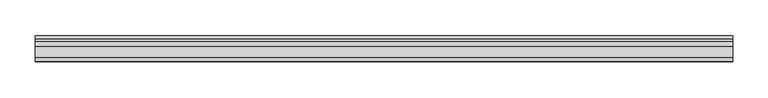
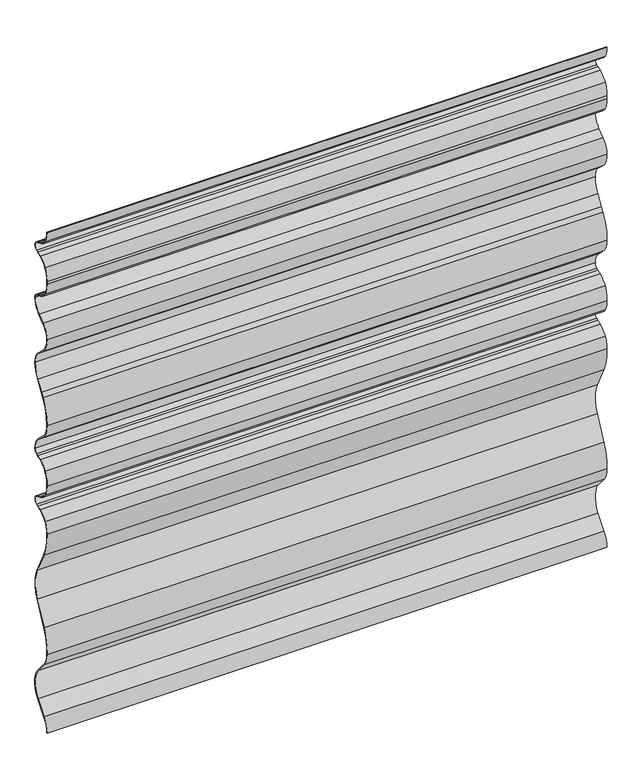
"""IFC4 building model written with IfcOpenShell, lengths in millimetres: plate geometry, Ritmica Horizontal 928 : Ritmica Horizontal 928."""

from ifc_helpers import new_model, si_unit, frame, origin, place, context, project, spatial, polyline, circle_curve, source, transform, mapped, element, save
from ifc_brep_helpers import plane_surface, cylinder_surface, revolved_surface, advanced_brep


def plate_98138fe8(model_context):
    return source(origin(), model_context, "Body", "AdvancedBrep", [
        advanced_brep(
        [(-491.1666667, 6.5092615, 908.0620129), (-491.1666667, 21.2621067, 895.6153968), (-491.1666667, 28.45755, 892.7364297), (-491.1666667, 31.9226364, 891.0770661), (-491.1666667, 31.9284533, 875.0954695), (-491.1666667, 28.4645758, 873.4335839), (-491.1666667, 21.2712303, 870.5493796), (-491.1666667, 6.5274495, 858.0920274), (-491.1666667, 0.7421798, 836.9983174), (-491.1666667, 0.7421798, 831.6596456), (-491.1666667, 6.5447465, 810.5701527), (-491.1666667, 21.2975918, 798.1235366), (-491.1666667, 28.493035, 795.2445695), (-491.1666667, 31.9581214, 793.5852059), (-491.1666667, 36.9921573, 785.5962388), (-491.1666667, 24.9656186, 760.6206134), (-491.1666667, 12.9828956, 751.0704574), (-491.1666667, 1.0048783, 728.5919745), (-491.1666667, 13.0090533, 701.127971), (-491.1666667, 24.9992939, 690.0241978), (-491.1666667, 37.0440106, 665.0573339), (-491.1666667, 28.6299997, 638.3240963), (-491.1666667, 17.4991449, 620.9910926), (-491.1666667, 13.1043036, 613.5575548), (-491.1666667, 0.921776, 569.3793833), (-491.1666667, 12.9259511, 541.9153798), (-491.1666667, 24.9161915, 530.8116067), (-491.1666667, 36.9609087, 505.8415328), (-491.1666667, 31.9326896, 497.8521133), (-491.1666667, 28.4688119, 496.1902275), (-491.1666667, 21.2754341, 493.3060102), (-491.1666667, 6.5316868, 480.8486726), (-491.1666667, 0.8337564, 457.0856569), (-491.1666667, 6.3430179, 437.5469103), (-491.1666667, 21.0958632, 425.1002943), (-491.1666667, 28.2913064, 422.2213272), (-491.1666667, 31.7563928, 420.5619636), (-491.1666667, 31.7622098, 404.580367), (-491.1666667, 28.2983323, 402.9184814), (-491.1666667, 21.1049867, 400.034277), (-491.1666667, 6.361206, 387.5769248), (-491.1666667, 0.8661693, 368.0341733), (-491.1666667, 10.0476711, 324.2892209), (-491.1666667, 30.4443377, 283.7581494), (-491.1666667, 30.4639577, 229.8542794), (-491.1666667, 10.0968014, 189.3083707), (-491.1666667, 0.9471466, 145.5567461), (-491.1666667, 9.5590077, 121.7925982), (-491.1666667, 28.254799, 99.3683726), (-491.1666667, 28.274038, 46.5109184), (-491.1666667, 9.5945757, 23.7707747), (-491.1666667, 1.0000163, 0.0), (-491.1666667, 1.63e-05, 0.0), (-491.1666667, 8.826039, 24.4105804), (-491.1666667, 27.4885473, 47.1303588), (-491.1666667, 27.4697594, 98.7483605), (-491.1666667, 8.790937, 121.1522332), (-491.1666667, -0.0528427, 145.5386154), (-491.1666667, 9.1993025, 189.7494732), (-491.1666667, 29.5703625, 230.3031531), (-491.1666667, 29.5510695, 283.3086253), (-491.1666667, 9.1504935, 323.8474651), (-491.1666667, -0.133833, 368.0515751), (-491.1666667, 5.5079347, 388.0983921), (-491.1666667, 20.7330524, 400.9625361), (-491.1666667, 27.895533, 403.834365), (-491.1666667, 31.3296428, 405.4819688), (-491.1666667, 31.3244823, 419.6600471), (-491.1666667, 27.889174, 421.3051505), (-491.1666667, 20.7246046, 424.1717647), (-491.1666667, 5.4901265, 437.024822), (-491.1666667, -0.1662181, 457.0529178), (-491.1666667, 5.6750593, 481.3646468), (-491.1666667, 20.9034647, 494.2342551), (-491.1666667, 28.0660127, 497.1061111), (-491.1666667, 31.5001226, 498.7537151), (-491.1666667, 35.9609087, 505.841531), (-491.1666667, 24.2645169, 530.052163), (-491.1666667, 12.2464871, 541.1816709), (-491.1666667, -0.0782183, 569.3680226), (-491.1666667, 12.2502128, 614.0778463), (-491.1666667, 16.6477304, 621.5159109), (-491.1666667, 27.7982686, 638.8795656), (-491.1666667, 36.04401, 665.0587755), (-491.1666667, 24.3475224, 689.2648438), (-491.1666667, 12.3295893, 700.3942621), (-491.1666667, 0.0048783, 728.5916105), (-491.1666667, 12.391292, 751.8777021), (-491.1666667, 24.342358, 761.4026277), (-491.1666667, 35.9921573, 785.5958749), (-491.1666667, 31.5262109, 792.6832895), (-491.1666667, 28.0909026, 794.3283929), (-491.1666667, 20.9248539, 797.1955989), (-491.1666667, 5.6893168, 810.0521734), (-491.1666667, -0.2558769, 831.6592816), (-491.1666667, -0.2578202, 836.9981365), (-491.1666667, 5.6708241, 858.6080051), (-491.1666667, 20.8992959, 871.4776387), (-491.1666667, 28.0617766, 874.3494676), (-491.1666667, 31.4958863, 875.9970713), (-491.1666667, 31.4907258, 890.1751497), (-491.1666667, 28.0554176, 891.8202531), (-491.1666667, 20.8908482, 894.6868673), (-491.1666667, 5.6563701, 907.5399245), (-491.1666667, 0.0, 927.600395), (-491.1666667, 1.0000001, 927.600395), (491.1666667, 6.5092615, 908.0620129), (491.1666667, 1.0000001, 927.600395), (491.1666667, 0.0, 927.600395), (491.1666667, 5.6563701, 907.5399245), (491.1666667, 20.8908482, 894.6868673), (491.1666667, 28.0554176, 891.8202531), (491.1666667, 31.4907258, 890.1751497), (491.1666667, 31.4958863, 875.9970713), (491.1666667, 28.0617766, 874.3494676), (491.1666667, 20.8992959, 871.4776387), (491.1666667, 5.6708241, 858.6080051), (491.1666667, -0.2578202, 836.9981365), (491.1666667, -0.2578202, 831.6596456), (491.1666667, 5.6893168, 810.0521734), (491.1666667, 20.9248539, 797.1955989), (491.1666667, 28.0909026, 794.3283929), (491.1666667, 31.5262109, 792.6832895), (491.1666667, 35.9921573, 785.5958749), (491.1666667, 24.342358, 761.4026277), (491.1666667, 12.391292, 751.8777021), (491.1666667, 0.0048783, 728.5916105), (491.1666667, 12.3295893, 700.3942621), (491.1666667, 24.3475224, 689.2648438), (491.1666667, 36.04401, 665.0587755), (491.1666667, 27.7982686, 638.8795656), (491.1666667, 16.6477304, 621.5159109), (491.1666667, 12.2502128, 614.0778463), (491.1666667, -0.0782183, 569.3680226), (491.1666667, 12.2464871, 541.1816709), (491.1666667, 24.2645169, 530.052163), (491.1666667, 35.9609087, 505.841531), (491.1666667, 31.5001226, 498.7537151), (491.1666667, 28.0660127, 497.1061111), (491.1666667, 20.9034647, 494.2342551), (491.1666667, 5.6750593, 481.3646468), (491.1666667, -0.1662181, 457.0529178), (491.1666667, 5.4901265, 437.024822), (491.1666667, 20.7246046, 424.1717647), (491.1666667, 27.889174, 421.3051505), (491.1666667, 31.3244823, 419.6600471), (491.1666667, 31.3296428, 405.4819688), (491.1666667, 27.895533, 403.834365), (491.1666667, 20.7330524, 400.9625361), (491.1666667, 5.5079347, 388.0983921), (491.1666667, -0.133833, 368.0515751), (491.1666667, 9.1504935, 323.8474651), (491.1666667, 29.5510695, 283.3086253), (491.1666667, 29.5703625, 230.3031531), (491.1666667, 9.1993025, 189.7494732), (491.1666667, -0.0528427, 145.5386154), (491.1666667, 8.790937, 121.1522332), (491.1666667, 27.4697594, 98.7483605), (491.1666667, 27.4885473, 47.1303588), (491.1666667, 8.826039, 24.4105804), (491.1666667, 1.63e-05, 0.0), (491.1666667, 1.0000163, 0.0), (491.1666667, 9.5945757, 23.7707747), (491.1666667, 28.274038, 46.5109184), (491.1666667, 28.254799, 99.3683726), (491.1666667, 9.5590077, 121.7925982), (491.1666667, 0.9471466, 145.5567461), (491.1666667, 10.0968014, 189.3083707), (491.1666667, 30.4639577, 229.8542794), (491.1666667, 30.4443377, 283.7581494), (491.1666667, 10.0476711, 324.2892209), (491.1666667, 0.8661693, 368.0341733), (491.1666667, 6.361206, 387.5769248), (491.1666667, 21.1049867, 400.034277), (491.1666667, 28.2983323, 402.9184814), (491.1666667, 31.7622098, 404.580367), (491.1666667, 31.7563928, 420.5619636), (491.1666667, 28.2913064, 422.2213272), (491.1666667, 21.0958632, 425.1002943), (491.1666667, 6.3430179, 437.5469103), (491.1666667, 0.8337564, 457.0856569), (491.1666667, 6.5316868, 480.8486726), (491.1666667, 21.2754341, 493.3060102), (491.1666667, 28.4688119, 496.1902275), (491.1666667, 31.9326896, 497.8521133), (491.1666667, 36.9609087, 505.8415328), (491.1666667, 24.9161915, 530.8116067), (491.1666667, 12.9259511, 541.9153798), (491.1666667, 0.921776, 569.3793833), (491.1666667, 13.1043036, 613.5575548), (491.1666667, 17.4991449, 620.9910926), (491.1666667, 28.6299997, 638.3240963), (491.1666667, 37.0440106, 665.0573339), (491.1666667, 24.9992939, 690.0241978), (491.1666667, 13.0090533, 701.127971), (491.1666667, 1.0048783, 728.5919745), (491.1666667, 12.9828956, 751.0704574), (491.1666667, 24.9656186, 760.6206134), (491.1666667, 36.9921573, 785.5962388), (491.1666667, 31.9581214, 793.5852059), (491.1666667, 28.493035, 795.2445695), (491.1666667, 21.2975918, 798.1235366), (491.1666667, 6.5447465, 810.5701527), (491.1666667, 0.744123, 831.6596456), (491.1666667, 0.7421798, 836.9983174), (491.1666667, 6.5274495, 858.0920274), (491.1666667, 21.2712303, 870.5493796), (491.1666667, 28.4645758, 873.4335839), (491.1666667, 31.9284533, 875.0954695), (491.1666667, 31.9226364, 891.0770661), (491.1666667, 28.45755, 892.7364297), (491.1666667, 21.2621067, 895.6153968)],
        [
            (0, 1, circle_curve(frame((-491.1666667, 32.6219637, 924.0466233), z_axis=(1.0, 0.0, 0.0), x_axis=(0.0, 0.0, 1.0)), 30.6166783)),
            (1, 2),
            (2, 3),
            (3, 4, circle_curve(frame((-491.1666667, 28.0953282, 883.0848737), z_axis=(-1.0, 0.0, 0.0), x_axis=(0.0, 0.0, 1.0)), 8.8613445)),
            (4, 5),
            (5, 6),
            (6, 7, circle_curve(frame((-491.1666667, 32.651781, 842.1264302), z_axis=(1.0, 0.0, 0.0), x_axis=(0.0, 0.0, 1.0)), 30.6166783)),
            (7, 8, circle_curve(frame((-491.1666667, 42.034972, 837.0133472), z_axis=(1.0, 0.0, 0.0), x_axis=(0.0, 0.0, 1.0)), 41.2927949)),
            (8, 9),
            (9, 10, circle_curve(frame((-491.1666667, 42.0369151, 831.6746753), z_axis=(1.0, 0.0, 0.0), x_axis=(0.0, 0.0, 1.0)), 41.2927949)),
            (10, 11, circle_curve(frame((-491.1666667, 32.8606059, 826.7955631), z_axis=(1.0, 0.0, 0.0), x_axis=(0.0, 0.0, 1.0)), 30.9158276)),
            (11, 12),
            (12, 13),
            (13, 14, circle_curve(frame((-491.1666667, 28.1308133, 785.5930135), z_axis=(-1.0, 0.0, 0.0), x_axis=(0.0, 0.0, 1.0)), 8.8613445)),
            (14, 15, circle_curve(frame((-491.1666667, 5.0694602, 785.5846196), z_axis=(-1.0, 0.0, 0.0), x_axis=(0.0, 0.0, 1.0)), 31.9226992)),
            (15, 16),
            (16, 17, circle_curve(frame((-491.1666667, 28.0674647, 728.6018247), z_axis=(1.0, 0.0, 0.0), x_axis=(0.0, 0.0, 1.0)), 27.0625882)),
            (17, 18, circle_curve(frame((-491.1666667, 38.4552002, 728.6056057), z_axis=(1.0, 0.0, 0.0), x_axis=(0.0, 0.0, 1.0)), 37.4503244)),
            (18, 19),
            (19, 20, circle_curve(frame((-491.1666667, 5.1213136, 665.0457146), z_axis=(-1.0, 0.0, 0.0), x_axis=(0.0, 0.0, 1.0)), 31.9226992)),
            (20, 21, circle_curve(frame((-491.1666667, -10.1198118, 665.2109304), z_axis=(-1.0, 0.0, 0.0), x_axis=(0.0, 0.0, 1.0)), 47.1640725)),
            (21, 22),
            (22, 23),
            (23, 24, circle_curve(frame((-491.1666667, 80.6713796, 571.1565204), z_axis=(1.0, 0.0, 0.0), x_axis=(0.0, 0.0, 1.0)), 79.769402)),
            (24, 25, circle_curve(frame((-491.1666667, 38.372098, 569.3930144), z_axis=(1.0, 0.0, 0.0), x_axis=(0.0, 0.0, 1.0)), 37.4503244)),
            (25, 26),
            (26, 27, circle_curve(frame((-491.1666667, 5.0555271, 505.8414768), z_axis=(-1.0, 0.0, 0.0), x_axis=(0.0, 0.0, 1.0)), 31.9053816)),
            (27, 28, circle_curve(frame((-491.1666667, 28.0995643, 505.8415173), z_axis=(-1.0, 0.0, 0.0), x_axis=(0.0, 0.0, 1.0)), 8.8613444)),
            (28, 29),
            (29, 30),
            (30, 31, circle_curve(frame((-491.1666667, 32.6560172, 464.8830737), z_axis=(1.0, 0.0, 0.0), x_axis=(0.0, 0.0, 1.0)), 30.6166783)),
            (31, 32, circle_curve(frame((-491.1666667, 42.0392082, 459.7699907), z_axis=(1.0, 0.0, 0.0), x_axis=(0.0, 0.0, 1.0)), 41.2927948)),
            (32, 33, circle_curve(frame((-491.1666667, 38.2840783, 457.0992876), z_axis=(1.0, 0.0, 0.0), x_axis=(0.0, 0.0, 1.0)), 37.4503244)),
            (33, 34, circle_curve(frame((-491.1666667, 32.4557202, 453.5315208), z_axis=(1.0, 0.0, 0.0), x_axis=(0.0, 0.0, 1.0)), 30.6166783)),
            (34, 35),
            (35, 36),
            (36, 37, circle_curve(frame((-491.1666667, 27.9290847, 412.5697711), z_axis=(-1.0, 0.0, 0.0), x_axis=(0.0, 0.0, 1.0)), 8.8613445)),
            (37, 38),
            (38, 39),
            (39, 40, circle_curve(frame((-491.1666667, 32.4855375, 371.6113276), z_axis=(1.0, 0.0, 0.0), x_axis=(0.0, 0.0, 1.0)), 30.6166783)),
            (40, 41, circle_curve(frame((-491.1666667, 38.3164913, 368.0478045), z_axis=(1.0, 0.0, 0.0), x_axis=(0.0, 0.0, 1.0)), 37.4503244)),
            (41, 42, circle_curve(frame((-491.1666667, 94.1023268, 364.7672254), z_axis=(1.0, 0.0, 0.0), x_axis=(0.0, 0.0, 1.0)), 93.293376)),
            (42, 43),
            (43, 44, circle_curve(frame((-491.1666667, -23.1517542, 256.7867029), z_axis=(-1.0, 0.0, 0.0), x_axis=(0.0, 0.0, 1.0)), 60.0)),
            (44, 45),
            (45, 46, circle_curve(frame((-491.1666667, 94.1809012, 148.8915653), z_axis=(1.0, 0.0, 0.0), x_axis=(0.0, 0.0, 1.0)), 93.293376)),
            (46, 47, circle_curve(frame((-491.1666667, 38.0785645, 145.5702612), z_axis=(1.0, 0.0, 0.0), x_axis=(0.0, 0.0, 1.0)), 37.1314203)),
            (47, 48),
            (48, 49, circle_curve(frame((-491.1666667, -7.0897542, 72.9267773), z_axis=(-1.0, 0.0, 0.0), x_axis=(0.0, 0.0, 1.0)), 44.1406321)),
            (49, 50),
            (50, 51, circle_curve(frame((-491.1666667, 38.131434, 0.0138791), z_axis=(1.0, 0.0, 0.0), x_axis=(0.0, 0.0, 1.0)), 37.1314203)),
            (51, 52),
            (52, 53, circle_curve(frame((-491.1666667, 38.131434, 0.0138791), z_axis=(-1.0, 0.0, 0.0), x_axis=(0.0, 0.0, 1.0)), 38.1314203)),
            (53, 54),
            (54, 55, circle_curve(frame((-491.1666667, -7.0897542, 72.9267773), z_axis=(1.0, 0.0, 0.0), x_axis=(0.0, 0.0, 1.0)), 43.1406321)),
            (55, 56),
            (56, 57, circle_curve(frame((-491.1666667, 38.0785645, 145.5702612), z_axis=(-1.0, 0.0, 0.0), x_axis=(0.0, 0.0, 1.0)), 38.1314203)),
            (57, 58, circle_curve(frame((-491.1666667, 94.1809012, 148.8915653), z_axis=(-1.0, 0.0, 0.0), x_axis=(0.0, 0.0, 1.0)), 94.293376)),
            (58, 59),
            (59, 60, circle_curve(frame((-491.1666667, -23.1517542, 256.7867029), z_axis=(1.0, 0.0, 0.0), x_axis=(0.0, 0.0, 1.0)), 59.0)),
            (60, 61),
            (61, 62, circle_curve(frame((-491.1666667, 94.1023268, 364.7672254), z_axis=(-1.0, 0.0, 0.0), x_axis=(0.0, 0.0, 1.0)), 94.293376)),
            (62, 63, circle_curve(frame((-491.1666667, 38.3164913, 368.0478045), z_axis=(-1.0, 0.0, 0.0), x_axis=(0.0, 0.0, 1.0)), 38.4503244)),
            (63, 64, circle_curve(frame((-491.1666667, 32.4855375, 371.6113276), z_axis=(-1.0, 0.0, 0.0), x_axis=(0.0, 0.0, 1.0)), 31.6166783)),
            (64, 65),
            (65, 66),
            (66, 67, circle_curve(frame((-491.1666667, 27.9290847, 412.5697711), z_axis=(1.0, 0.0, 0.0), x_axis=(0.0, 0.0, 1.0)), 7.8613445)),
            (67, 68),
            (68, 69),
            (69, 70, circle_curve(frame((-491.1666667, 32.4557202, 453.5315208), z_axis=(-1.0, 0.0, 0.0), x_axis=(0.0, 0.0, 1.0)), 31.6166783)),
            (70, 71, circle_curve(frame((-491.1666667, 38.2840783, 457.0992876), z_axis=(-1.0, 0.0, 0.0), x_axis=(0.0, 0.0, 1.0)), 38.4503244)),
            (71, 72, circle_curve(frame((-491.1666667, 42.0392082, 459.7699907), z_axis=(-1.0, 0.0, 0.0), x_axis=(0.0, 0.0, 1.0)), 42.2927948)),
            (72, 73, circle_curve(frame((-491.1666667, 32.6560172, 464.8830737), z_axis=(-1.0, 0.0, 0.0), x_axis=(0.0, 0.0, 1.0)), 31.6166782)),
            (73, 74),
            (74, 75),
            (75, 76, circle_curve(frame((-491.1666667, 28.0995643, 505.8415173), z_axis=(1.0, 0.0, 0.0), x_axis=(0.0, 0.0, 1.0)), 7.8613444)),
            (76, 77, circle_curve(frame((-491.1666667, 5.0555271, 505.8414768), z_axis=(1.0, 0.0, 0.0), x_axis=(0.0, 0.0, 1.0)), 30.9053816)),
            (77, 78),
            (78, 79, circle_curve(frame((-491.1666667, 38.372098, 569.3930144), z_axis=(-1.0, 0.0, 0.0), x_axis=(0.0, 0.0, 1.0)), 38.4503244)),
            (79, 80, circle_curve(frame((-491.1666667, 80.6713796, 571.1565204), z_axis=(-1.0, 0.0, 0.0), x_axis=(0.0, 0.0, 1.0)), 80.769402)),
            (80, 81),
            (81, 82),
            (82, 83, circle_curve(frame((-491.1666667, -10.1198118, 665.2109304), z_axis=(1.0, 0.0, 0.0), x_axis=(0.0, 0.0, 1.0)), 46.1640725)),
            (83, 84, circle_curve(frame((-491.1666667, 5.1213136, 665.0457146), z_axis=(1.0, 0.0, 0.0), x_axis=(0.0, 0.0, 1.0)), 30.9226992)),
            (84, 85),
            (85, 86, circle_curve(frame((-491.1666667, 38.4552002, 728.6056057), z_axis=(-1.0, 0.0, 0.0), x_axis=(0.0, 0.0, 1.0)), 38.4503244)),
            (86, 87, circle_curve(frame((-491.1666667, 28.0674647, 728.6018247), z_axis=(-1.0, 0.0, 0.0), x_axis=(0.0, 0.0, 1.0)), 28.0625882)),
            (87, 88),
            (88, 89, circle_curve(frame((-491.1666667, 5.0694602, 785.5846196), z_axis=(1.0, 0.0, 0.0), x_axis=(0.0, 0.0, 1.0)), 30.9226992)),
            (89, 90, circle_curve(frame((-491.1666667, 28.1308133, 785.5930135), z_axis=(1.0, 0.0, 0.0), x_axis=(0.0, 0.0, 1.0)), 7.8613445)),
            (90, 91),
            (91, 92),
            (92, 93, circle_curve(frame((-491.1666667, 32.8606059, 826.7955631), z_axis=(-1.0, 0.0, 0.0), x_axis=(0.0, 0.0, 1.0)), 31.9158276)),
            (93, 94, circle_curve(frame((-491.1666667, 42.0369151, 831.6746753), z_axis=(-1.0, 0.0, 0.0), x_axis=(0.0, 0.0, 1.0)), 42.2927949)),
            (94, 95),
            (95, 96, circle_curve(frame((-491.1666667, 42.034972, 837.0133472), z_axis=(-1.0, 0.0, 0.0), x_axis=(0.0, 0.0, 1.0)), 42.2927949)),
            (96, 97, circle_curve(frame((-491.1666667, 32.651781, 842.1264302), z_axis=(-1.0, 0.0, 0.0), x_axis=(0.0, 0.0, 1.0)), 31.6166783)),
            (97, 98),
            (98, 99),
            (99, 100, circle_curve(frame((-491.1666667, 28.0953282, 883.0848737), z_axis=(1.0, 0.0, 0.0), x_axis=(0.0, 0.0, 1.0)), 7.8613445)),
            (100, 101),
            (101, 102),
            (102, 103, circle_curve(frame((-491.1666667, 32.6219637, 924.0466233), z_axis=(-1.0, 0.0, 0.0), x_axis=(0.0, 0.0, 1.0)), 31.6166783)),
            (103, 104, circle_curve(frame((-491.1666667, 38.4503219, 927.6143902), z_axis=(-1.0, 0.0, 0.0), x_axis=(0.0, 0.0, 1.0)), 38.4503244)),
            (104, 105),
            (105, 0, circle_curve(frame((-491.1666667, 38.4503219, 927.6143902), z_axis=(1.0, 0.0, 0.0), x_axis=(0.0, 0.0, 1.0)), 37.4503244)),
            (106, 107, circle_curve(frame((491.1666667, 38.4503219, 927.6143902), z_axis=(-1.0, 0.0, 0.0), x_axis=(0.0, 0.0, 1.0)), 37.4503244)),
            (107, 108),
            (108, 109, circle_curve(frame((491.1666667, 38.4503219, 927.6143902), z_axis=(1.0, 0.0, 0.0), x_axis=(0.0, 0.0, 1.0)), 38.4503244)),
            (109, 110, circle_curve(frame((491.1666667, 32.6219637, 924.0466233), z_axis=(1.0, 0.0, 0.0), x_axis=(0.0, 0.0, 1.0)), 31.6166783)),
            (110, 111),
            (111, 112),
            (112, 113, circle_curve(frame((491.1666667, 28.0953282, 883.0848737), z_axis=(-1.0, 0.0, 0.0), x_axis=(0.0, 0.0, 1.0)), 7.8613445)),
            (113, 114),
            (114, 115),
            (115, 116, circle_curve(frame((491.1666667, 32.651781, 842.1264302), z_axis=(1.0, 0.0, 0.0), x_axis=(0.0, 0.0, 1.0)), 31.6166783)),
            (116, 117, circle_curve(frame((491.1666667, 42.034972, 837.0133472), z_axis=(1.0, 0.0, 0.0), x_axis=(0.0, 0.0, 1.0)), 42.2927949)),
            (117, 118),
            (118, 119, circle_curve(frame((491.1666667, 42.0369151, 831.6746753), z_axis=(1.0, 0.0, 0.0), x_axis=(0.0, 0.0, 1.0)), 42.2927949)),
            (119, 120, circle_curve(frame((491.1666667, 32.8606059, 826.7955631), z_axis=(1.0, 0.0, 0.0), x_axis=(0.0, 0.0, 1.0)), 31.9158276)),
            (120, 121),
            (121, 122),
            (122, 123, circle_curve(frame((491.1666667, 28.1308133, 785.5930135), z_axis=(-1.0, 0.0, 0.0), x_axis=(0.0, 0.0, 1.0)), 7.8613445)),
            (123, 124, circle_curve(frame((491.1666667, 5.0694602, 785.5846196), z_axis=(-1.0, 0.0, 0.0), x_axis=(0.0, 0.0, 1.0)), 30.9226992)),
            (124, 125),
            (125, 126, circle_curve(frame((491.1666667, 28.0674647, 728.6018247), z_axis=(1.0, 0.0, 0.0), x_axis=(0.0, 0.0, 1.0)), 28.0625882)),
            (126, 127, circle_curve(frame((491.1666667, 38.4552002, 728.6056057), z_axis=(1.0, 0.0, 0.0), x_axis=(0.0, 0.0, 1.0)), 38.4503244)),
            (127, 128),
            (128, 129, circle_curve(frame((491.1666667, 5.1213136, 665.0457146), z_axis=(-1.0, 0.0, 0.0), x_axis=(0.0, 0.0, 1.0)), 30.9226992)),
            (129, 130, circle_curve(frame((491.1666667, -10.1198118, 665.2109304), z_axis=(-1.0, 0.0, 0.0), x_axis=(0.0, 0.0, 1.0)), 46.1640725)),
            (130, 131),
            (131, 132),
            (132, 133, circle_curve(frame((491.1666667, 80.6713796, 571.1565204), z_axis=(1.0, 0.0, 0.0), x_axis=(0.0, 0.0, 1.0)), 80.769402)),
            (133, 134, circle_curve(frame((491.1666667, 38.372098, 569.3930144), z_axis=(1.0, 0.0, 0.0), x_axis=(0.0, 0.0, 1.0)), 38.4503244)),
            (134, 135),
            (135, 136, circle_curve(frame((491.1666667, 5.0555271, 505.8414768), z_axis=(-1.0, 0.0, 0.0), x_axis=(0.0, 0.0, 1.0)), 30.9053816)),
            (136, 137, circle_curve(frame((491.1666667, 28.0995643, 505.8415173), z_axis=(-1.0, 0.0, 0.0), x_axis=(0.0, 0.0, 1.0)), 7.8613444)),
            (137, 138),
            (138, 139),
            (139, 140, circle_curve(frame((491.1666667, 32.6560172, 464.8830737), z_axis=(1.0, 0.0, 0.0), x_axis=(0.0, 0.0, 1.0)), 31.6166782)),
            (140, 141, circle_curve(frame((491.1666667, 42.0392082, 459.7699907), z_axis=(1.0, 0.0, 0.0), x_axis=(0.0, 0.0, 1.0)), 42.2927948)),
            (141, 142, circle_curve(frame((491.1666667, 38.2840783, 457.0992876), z_axis=(1.0, 0.0, 0.0), x_axis=(0.0, 0.0, 1.0)), 38.4503244)),
            (142, 143, circle_curve(frame((491.1666667, 32.4557202, 453.5315208), z_axis=(1.0, 0.0, 0.0), x_axis=(0.0, 0.0, 1.0)), 31.6166783)),
            (143, 144),
            (144, 145),
            (145, 146, circle_curve(frame((491.1666667, 27.9290847, 412.5697711), z_axis=(-1.0, 0.0, 0.0), x_axis=(0.0, 0.0, 1.0)), 7.8613445)),
            (146, 147),
            (147, 148),
            (148, 149, circle_curve(frame((491.1666667, 32.4855375, 371.6113276), z_axis=(1.0, 0.0, 0.0), x_axis=(0.0, 0.0, 1.0)), 31.6166783)),
            (149, 150, circle_curve(frame((491.1666667, 38.3164913, 368.0478045), z_axis=(1.0, 0.0, 0.0), x_axis=(0.0, 0.0, 1.0)), 38.4503244)),
            (150, 151, circle_curve(frame((491.1666667, 94.1023268, 364.7672254), z_axis=(1.0, 0.0, 0.0), x_axis=(0.0, 0.0, 1.0)), 94.293376)),
            (151, 152),
            (152, 153, circle_curve(frame((491.1666667, -23.1517542, 256.7867029), z_axis=(-1.0, 0.0, 0.0), x_axis=(0.0, 0.0, 1.0)), 59.0)),
            (153, 154),
            (154, 155, circle_curve(frame((491.1666667, 94.1809012, 148.8915653), z_axis=(1.0, 0.0, 0.0), x_axis=(0.0, 0.0, 1.0)), 94.293376)),
            (155, 156, circle_curve(frame((491.1666667, 38.0785645, 145.5702612), z_axis=(1.0, 0.0, 0.0), x_axis=(0.0, 0.0, 1.0)), 38.1314203)),
            (156, 157),
            (157, 158, circle_curve(frame((491.1666667, -7.0897542, 72.9267773), z_axis=(-1.0, 0.0, 0.0), x_axis=(0.0, 0.0, 1.0)), 43.1406321)),
            (158, 159),
            (159, 160, circle_curve(frame((491.1666667, 38.131434, 0.0138791), z_axis=(1.0, 0.0, 0.0), x_axis=(0.0, 0.0, 1.0)), 38.1314203)),
            (160, 161),
            (161, 162, circle_curve(frame((491.1666667, 38.131434, 0.0138791), z_axis=(-1.0, 0.0, 0.0), x_axis=(0.0, 0.0, 1.0)), 37.1314203)),
            (162, 163),
            (163, 164, circle_curve(frame((491.1666667, -7.0897542, 72.9267773), z_axis=(1.0, 0.0, 0.0), x_axis=(0.0, 0.0, 1.0)), 44.1406321)),
            (164, 165),
            (165, 166, circle_curve(frame((491.1666667, 38.0785645, 145.5702612), z_axis=(-1.0, 0.0, 0.0), x_axis=(0.0, 0.0, 1.0)), 37.1314203)),
            (166, 167, circle_curve(frame((491.1666667, 94.1809012, 148.8915653), z_axis=(-1.0, 0.0, 0.0), x_axis=(0.0, 0.0, 1.0)), 93.293376)),
            (167, 168),
            (168, 169, circle_curve(frame((491.1666667, -23.1517542, 256.7867029), z_axis=(1.0, 0.0, 0.0), x_axis=(0.0, 0.0, 1.0)), 60.0)),
            (169, 170),
            (170, 171, circle_curve(frame((491.1666667, 94.1023268, 364.7672254), z_axis=(-1.0, 0.0, 0.0), x_axis=(0.0, 0.0, 1.0)), 93.293376)),
            (171, 172, circle_curve(frame((491.1666667, 38.3164913, 368.0478045), z_axis=(-1.0, 0.0, 0.0), x_axis=(0.0, 0.0, 1.0)), 37.4503244)),
            (172, 173, circle_curve(frame((491.1666667, 32.4855375, 371.6113276), z_axis=(-1.0, 0.0, 0.0), x_axis=(0.0, 0.0, 1.0)), 30.6166783)),
            (173, 174),
            (174, 175),
            (175, 176, circle_curve(frame((491.1666667, 27.9290847, 412.5697711), z_axis=(1.0, 0.0, 0.0), x_axis=(0.0, 0.0, 1.0)), 8.8613445)),
            (176, 177),
            (177, 178),
            (178, 179, circle_curve(frame((491.1666667, 32.4557202, 453.5315208), z_axis=(-1.0, 0.0, 0.0), x_axis=(0.0, 0.0, 1.0)), 30.6166783)),
            (179, 180, circle_curve(frame((491.1666667, 38.2840783, 457.0992876), z_axis=(-1.0, 0.0, 0.0), x_axis=(0.0, 0.0, 1.0)), 37.4503244)),
            (180, 181, circle_curve(frame((491.1666667, 42.0392082, 459.7699907), z_axis=(-1.0, 0.0, 0.0), x_axis=(0.0, 0.0, 1.0)), 41.2927948)),
            (181, 182, circle_curve(frame((491.1666667, 32.6560172, 464.8830737), z_axis=(-1.0, 0.0, 0.0), x_axis=(0.0, 0.0, 1.0)), 30.6166783)),
            (182, 183),
            (183, 184),
            (184, 185, circle_curve(frame((491.1666667, 28.0995643, 505.8415173), z_axis=(1.0, 0.0, 0.0), x_axis=(0.0, 0.0, 1.0)), 8.8613444)),
            (185, 186, circle_curve(frame((491.1666667, 5.0555271, 505.8414768), z_axis=(1.0, 0.0, 0.0), x_axis=(0.0, 0.0, 1.0)), 31.9053816)),
            (186, 187),
            (187, 188, circle_curve(frame((491.1666667, 38.372098, 569.3930144), z_axis=(-1.0, 0.0, 0.0), x_axis=(0.0, 0.0, 1.0)), 37.4503244)),
            (188, 189, circle_curve(frame((491.1666667, 80.6713796, 571.1565204), z_axis=(-1.0, 0.0, 0.0), x_axis=(0.0, 0.0, 1.0)), 79.769402)),
            (189, 190),
            (190, 191),
            (191, 192, circle_curve(frame((491.1666667, -10.1198118, 665.2109304), z_axis=(1.0, 0.0, 0.0), x_axis=(0.0, 0.0, 1.0)), 47.1640725)),
            (192, 193, circle_curve(frame((491.1666667, 5.1213136, 665.0457146), z_axis=(1.0, 0.0, 0.0), x_axis=(0.0, 0.0, 1.0)), 31.9226992)),
            (193, 194),
            (194, 195, circle_curve(frame((491.1666667, 38.4552002, 728.6056057), z_axis=(-1.0, 0.0, 0.0), x_axis=(0.0, 0.0, 1.0)), 37.4503244)),
            (195, 196, circle_curve(frame((491.1666667, 28.0674647, 728.6018247), z_axis=(-1.0, 0.0, 0.0), x_axis=(0.0, 0.0, 1.0)), 27.0625882)),
            (196, 197),
            (197, 198, circle_curve(frame((491.1666667, 5.0694602, 785.5846196), z_axis=(1.0, 0.0, 0.0), x_axis=(0.0, 0.0, 1.0)), 31.9226992)),
            (198, 199, circle_curve(frame((491.1666667, 28.1308133, 785.5930135), z_axis=(1.0, 0.0, 0.0), x_axis=(0.0, 0.0, 1.0)), 8.8613445)),
            (199, 200),
            (200, 201),
            (201, 202, circle_curve(frame((491.1666667, 32.8606059, 826.7955631), z_axis=(-1.0, 0.0, 0.0), x_axis=(0.0, 0.0, 1.0)), 30.9158276)),
            (202, 203, circle_curve(frame((491.1666667, 42.0369151, 831.6746753), z_axis=(-1.0, 0.0, 0.0), x_axis=(0.0, 0.0, 1.0)), 41.2927949)),
            (203, 204),
            (204, 205, circle_curve(frame((491.1666667, 42.034972, 837.0133472), z_axis=(-1.0, 0.0, 0.0), x_axis=(0.0, 0.0, 1.0)), 41.2927949)),
            (205, 206, circle_curve(frame((491.1666667, 32.651781, 842.1264302), z_axis=(-1.0, 0.0, 0.0), x_axis=(0.0, 0.0, 1.0)), 30.6166783)),
            (206, 207),
            (207, 208),
            (208, 209, circle_curve(frame((491.1666667, 28.0953282, 883.0848737), z_axis=(1.0, 0.0, 0.0), x_axis=(0.0, 0.0, 1.0)), 8.8613445)),
            (209, 210),
            (210, 211),
            (211, 106, circle_curve(frame((491.1666667, 32.6219637, 924.0466233), z_axis=(-1.0, 0.0, 0.0), x_axis=(0.0, 0.0, 1.0)), 30.6166783)),
            (0, 106),
            (211, 1),
            (210, 2),
            (209, 3),
            (208, 4),
            (207, 5),
            (206, 6),
            (205, 7),
            (204, 8),
            (203, 9),
            (202, 10),
            (201, 11),
            (200, 12),
            (199, 13),
            (198, 14),
            (197, 15),
            (196, 16),
            (195, 17),
            (194, 18),
            (193, 19),
            (192, 20),
            (191, 21),
            (190, 22),
            (189, 23),
            (188, 24),
            (187, 25),
            (186, 26),
            (185, 27),
            (184, 28),
            (183, 29),
            (182, 30),
            (181, 31),
            (180, 32),
            (179, 33),
            (178, 34),
            (177, 35),
            (176, 36),
            (175, 37),
            (174, 38),
            (173, 39),
            (172, 40),
            (171, 41),
            (170, 42),
            (169, 43),
            (168, 44),
            (167, 45),
            (166, 46),
            (165, 47),
            (164, 48),
            (163, 49),
            (162, 50),
            (161, 51),
            (160, 52),
            (159, 53),
            (158, 54),
            (157, 55),
            (156, 56),
            (155, 57),
            (154, 58),
            (153, 59),
            (152, 60),
            (151, 61),
            (150, 62),
            (149, 63),
            (148, 64),
            (147, 65),
            (146, 66),
            (145, 67),
            (144, 68),
            (143, 69),
            (142, 70),
            (141, 71),
            (140, 72),
            (139, 73),
            (138, 74),
            (137, 75),
            (136, 76),
            (135, 77),
            (134, 78),
            (133, 79),
            (132, 80),
            (131, 81),
            (130, 82),
            (129, 83),
            (128, 84),
            (127, 85),
            (126, 86),
            (125, 87),
            (124, 88),
            (123, 89),
            (122, 90),
            (121, 91),
            (120, 92),
            (119, 93),
            (118, 94),
            (117, 95),
            (116, 96),
            (115, 97),
            (114, 98),
            (113, 99),
            (112, 100),
            (111, 101),
            (110, 102),
            (109, 103),
            (108, 104),
            (107, 105),
        ],
        [
            plane_surface(frame((-491.1666667, 32.6219637, 954.6633016), z_axis=(-1.0, 0.0, 0.0), x_axis=(0.0, -1.0, 0.0))),
            plane_surface(frame((491.1666667, 32.6219637, 954.6633016), z_axis=(1.0, 0.0, 0.0), x_axis=(0.0, 1.0, 0.0))),
            revolved_surface(polyline([(491.1666667, 32.6219637, 954.6633016), (-491.1666667, 32.6219637, 954.6633016)]), (491.1666667, 32.6219637, 924.0466233), (1.0, 0.0, 0.0)),
            plane_surface(frame((-491.1666667, 21.2621067, 895.6153968), z_axis=(0.0, 0.3714785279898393, 0.9284415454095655), x_axis=(1.0, 0.0, 0.0))),
            plane_surface(frame((-491.1666667, 28.45755, 892.7364297), z_axis=(0.0, 0.43191054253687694, 0.9019164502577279), x_axis=(1.0, 0.0, 0.0))),
            cylinder_surface(frame((491.1666667, 28.0953282, 883.0848737), z_axis=(-1.0, 0.0, 0.0), x_axis=(0.0, 0.0, 1.0)), 8.8613445),
            plane_surface(frame((-491.1666667, 31.9284533, 875.0954695), z_axis=(0.0, 0.43256698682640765, -0.9016017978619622), x_axis=(1.0, 0.0, 0.0))),
            plane_surface(frame((-491.1666667, 28.4645758, 873.4335839), z_axis=(0.0, 0.3721542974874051, -0.928170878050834), x_axis=(1.0, 0.0, 0.0))),
            revolved_surface(polyline([(491.1666667, 32.651781, 872.7431085), (-491.1666667, 32.651781, 872.7431085)]), (491.1666667, 32.651781, 842.1264302), (1.0, 0.0, 0.0)),
            revolved_surface(polyline([(491.1666667, 42.034972, 878.3061421), (-491.1666667, 42.034972, 878.3061421)]), (491.1666667, 42.034972, 837.0133472), (1.0, 0.0, 0.0)),
            plane_surface(frame((-491.1666667, 0.7421798, 836.9983174), z_axis=(0.0, 1.0, 0.0), x_axis=(1.0, 0.0, 0.0))),
            revolved_surface(polyline([(491.1666667, 42.0369151, 872.9674702), (-491.1666667, 42.0369151, 872.9674702)]), (491.1666667, 42.0369151, 831.6746753), (1.0, 0.0, 0.0)),
            revolved_surface(polyline([(491.1666667, 32.8606059, 857.7113907), (-491.1666667, 32.8606059, 857.7113907)]), (491.1666667, 32.8606059, 826.7955631), (1.0, 0.0, 0.0)),
            plane_surface(frame((-491.1666667, 21.2975918, 798.1235366), z_axis=(0.0, 0.3714785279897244, 0.9284415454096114), x_axis=(1.0, 0.0, 0.0))),
            plane_surface(frame((-491.1666667, 28.493035, 795.2445695), z_axis=(0.0, 0.4319105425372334, 0.9019164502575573), x_axis=(1.0, 0.0, 0.0))),
            cylinder_surface(frame((491.1666667, 28.1308133, 785.5930135), z_axis=(-1.0, 0.0, 0.0), x_axis=(0.0, 0.0, 1.0)), 8.8613445),
            cylinder_surface(frame((491.1666667, 5.0694602, 785.5846196), z_axis=(-1.0, 0.0, 0.0), x_axis=(0.0, 0.0, 1.0)), 31.9226992),
            plane_surface(frame((-491.1666667, 24.9656186, 760.6206134), z_axis=(0.0, 0.6232605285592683, -0.7820142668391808), x_axis=(1.0, 0.0, 0.0))),
            revolved_surface(polyline([(491.1666667, 28.0674647, 755.6644129), (-491.1666667, 28.0674647, 755.6644129)]), (491.1666667, 28.0674647, 728.6018247), (1.0, 0.0, 0.0)),
            revolved_surface(polyline([(491.1666667, 38.4552002, 766.0559301), (-491.1666667, 38.4552002, 766.0559301)]), (491.1666667, 38.4552002, 728.6056057), (1.0, 0.0, 0.0)),
            plane_surface(frame((-491.1666667, 13.0090533, 701.127971), z_axis=(0.0, 0.6794639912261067, 0.7337088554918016), x_axis=(1.0, 0.0, 0.0))),
            cylinder_surface(frame((491.1666667, 5.1213136, 665.0457146), z_axis=(-1.0, 0.0, 0.0), x_axis=(0.0, 0.0, 1.0)), 31.9226992),
            cylinder_surface(frame((491.1666667, -10.1198118, 665.2109304), z_axis=(-1.0, 0.0, 0.0), x_axis=(0.0, 0.0, 1.0)), 47.1640725),
            plane_surface(frame((-491.1666667, 28.6299997, 638.3240963), z_axis=(0.0, 0.8414387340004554, -0.5403525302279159), x_axis=(1.0, 0.0, 0.0))),
            plane_surface(frame((-491.1666667, 17.4991449, 620.9910926), z_axis=(0.0, 0.8608100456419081, -0.5089263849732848), x_axis=(1.0, 0.0, 0.0))),
            revolved_surface(polyline([(491.1666667, 80.6713796, 650.9259224), (-491.1666667, 80.6713796, 650.9259224)]), (491.1666667, 80.6713796, 571.1565204), (1.0, 0.0, 0.0)),
            revolved_surface(polyline([(491.1666667, 38.372098, 606.8433388), (-491.1666667, 38.372098, 606.8433388)]), (491.1666667, 38.372098, 569.3930144), (1.0, 0.0, 0.0)),
            plane_surface(frame((-491.1666667, 12.9259511, 541.9153798), z_axis=(0.0, 0.6794639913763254, 0.7337088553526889), x_axis=(1.0, 0.0, 0.0))),
            cylinder_surface(frame((491.1666667, 5.0555271, 505.8414768), z_axis=(-1.0, 0.0, 0.0), x_axis=(0.0, 0.0, 1.0)), 31.9053816),
            cylinder_surface(frame((491.1666667, 28.0995643, 505.8415173), z_axis=(-1.0, 0.0, 0.0), x_axis=(0.0, 0.0, 1.0)), 8.8613444),
            plane_surface(frame((-491.1666667, 31.9326896, 497.8521133), z_axis=(0.0, 0.43256701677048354, -0.9016017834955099), x_axis=(1.0, 0.0, 0.0))),
            plane_surface(frame((-491.1666667, 28.4688119, 496.1902275), z_axis=(0.0, 0.37215430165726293, -0.9281708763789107), x_axis=(1.0, 0.0, 0.0))),
            revolved_surface(polyline([(491.1666667, 32.6560172, 495.499752), (-491.1666667, 32.6560172, 495.499752)]), (491.1666667, 32.6560172, 464.8830737), (1.0, 0.0, 0.0)),
            revolved_surface(polyline([(491.1666667, 42.0392082, 501.0627855), (-491.1666667, 42.0392082, 501.0627855)]), (491.1666667, 42.0392082, 459.7699907), (1.0, 0.0, 0.0)),
            revolved_surface(polyline([(491.1666667, 38.2840783, 494.549612), (-491.1666667, 38.2840783, 494.549612)]), (491.1666667, 38.2840783, 457.0992876), (1.0, 0.0, 0.0)),
            revolved_surface(polyline([(491.1666667, 32.4557202, 484.1481991), (-491.1666667, 32.4557202, 484.1481991)]), (491.1666667, 32.4557202, 453.5315208), (1.0, 0.0, 0.0)),
            plane_surface(frame((-491.1666667, 21.0958632, 425.1002943), z_axis=(0.0, 0.3714785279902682, 0.9284415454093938), x_axis=(1.0, 0.0, 0.0))),
            plane_surface(frame((-491.1666667, 28.2913064, 422.2213272), z_axis=(0.0, 0.43191054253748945, 0.9019164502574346), x_axis=(1.0, 0.0, 0.0))),
            cylinder_surface(frame((491.1666667, 27.9290847, 412.5697711), z_axis=(-1.0, 0.0, 0.0), x_axis=(0.0, 0.0, 1.0)), 8.8613445),
            plane_surface(frame((-491.1666667, 31.7622098, 404.580367), z_axis=(0.0, 0.432566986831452, -0.901601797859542), x_axis=(1.0, 0.0, 0.0))),
            plane_surface(frame((-491.1666667, 28.2983323, 402.9184814), z_axis=(0.0, 0.3721542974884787, -0.9281708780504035), x_axis=(1.0, 0.0, 0.0))),
            revolved_surface(polyline([(491.1666667, 32.4855375, 402.22800589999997), (-491.1666667, 32.4855375, 402.22800589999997)]), (491.1666667, 32.4855375, 371.6113276), (1.0, 0.0, 0.0)),
            revolved_surface(polyline([(491.1666667, 38.3164913, 405.4981289), (-491.1666667, 38.3164913, 405.4981289)]), (491.1666667, 38.3164913, 368.0478045), (1.0, 0.0, 0.0)),
            revolved_surface(polyline([(491.1666667, 94.1023268, 458.0606014), (-491.1666667, 94.1023268, 458.0606014)]), (491.1666667, 94.1023268, 364.7672254), (1.0, 0.0, 0.0)),
            plane_surface(frame((-491.1666667, 10.0476711, 324.2892209), z_axis=(0.0, 0.8932681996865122, 0.4495241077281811), x_axis=(1.0, 0.0, 0.0))),
            cylinder_surface(frame((491.1666667, -23.1517542, 256.7867029), z_axis=(-1.0, 0.0, 0.0), x_axis=(0.0, 0.0, 1.0)), 60.0),
            plane_surface(frame((-491.1666667, 30.4639577, 229.8542794), z_axis=(0.0, 0.8935951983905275, -0.44887372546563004), x_axis=(1.0, 0.0, 0.0))),
            revolved_surface(polyline([(491.1666667, 94.1809012, 242.1849413), (-491.1666667, 94.1809012, 242.1849413)]), (491.1666667, 94.1809012, 148.8915653), (1.0, 0.0, 0.0)),
            revolved_surface(polyline([(491.1666667, 38.0785645, 182.7016815), (-491.1666667, 38.0785645, 182.7016815)]), (491.1666667, 38.0785645, 145.5702612), (1.0, 0.0, 0.0)),
            plane_surface(frame((-491.1666667, 9.5590077, 121.7925982), z_axis=(0.0, 0.768070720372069, 0.640365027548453), x_axis=(1.0, 0.0, 0.0))),
            cylinder_surface(frame((491.1666667, -7.0897542, 72.9267773), z_axis=(-1.0, 0.0, 0.0), x_axis=(0.0, 0.0, 1.0)), 44.1406321),
            plane_surface(frame((-491.1666667, 28.274038, 46.5109184), z_axis=(0.0, 0.7727252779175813, -0.6347406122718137), x_axis=(1.0, 0.0, 0.0))),
            revolved_surface(polyline([(491.1666667, 38.131434, 37.1452994), (-491.1666667, 38.131434, 37.1452994)]), (491.1666667, 38.131434, 0.0138791), (1.0, 0.0, 0.0)),
            plane_surface(frame((-491.1666667, 1.0000163, 0.0), z_axis=(0.0, 0.0, -1.0), x_axis=(1.0, 0.0, 0.0))),
            cylinder_surface(frame((491.1666667, 38.131434, 0.0138791), z_axis=(-1.0, 0.0, 0.0), x_axis=(0.0, 0.0, 1.0)), 38.1314203),
            plane_surface(frame((-491.1666667, 8.826039, 24.4105804), z_axis=(0.0, -0.772729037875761, 0.6347360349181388), x_axis=(1.0, 0.0, 0.0))),
            revolved_surface(polyline([(491.1666667, -7.0897542, 116.0674094), (-491.1666667, -7.0897542, 116.0674094)]), (491.1666667, -7.0897542, 72.9267773), (1.0, 0.0, 0.0)),
            plane_surface(frame((-491.1666667, 27.4697594, 98.7483605), z_axis=(0.0, -0.7680707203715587, -0.6403650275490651), x_axis=(1.0, 0.0, 0.0))),
            cylinder_surface(frame((491.1666667, 38.0785645, 145.5702612), z_axis=(-1.0, 0.0, 0.0), x_axis=(0.0, 0.0, 1.0)), 38.1314203),
            cylinder_surface(frame((491.1666667, 94.1809012, 148.8915653), z_axis=(-1.0, 0.0, 0.0), x_axis=(0.0, 0.0, 1.0)), 94.293376),
            plane_surface(frame((-491.1666667, 9.1993025, 189.7494732), z_axis=(0.0, -0.893595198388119, 0.448873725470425), x_axis=(1.0, 0.0, 0.0))),
            revolved_surface(polyline([(491.1666667, -23.1517542, 315.7867029), (-491.1666667, -23.1517542, 315.7867029)]), (491.1666667, -23.1517542, 256.7867029), (1.0, 0.0, 0.0)),
            plane_surface(frame((-491.1666667, 29.5510695, 283.3086253), z_axis=(0.0, -0.8932681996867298, -0.4495241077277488), x_axis=(1.0, 0.0, 0.0))),
            cylinder_surface(frame((491.1666667, 94.1023268, 364.7672254), z_axis=(-1.0, 0.0, 0.0), x_axis=(0.0, 0.0, 1.0)), 94.293376),
            cylinder_surface(frame((491.1666667, 38.3164913, 368.0478045), z_axis=(-1.0, 0.0, 0.0), x_axis=(0.0, 0.0, 1.0)), 38.4503244),
            cylinder_surface(frame((491.1666667, 32.4855375, 371.6113276), z_axis=(-1.0, 0.0, 0.0), x_axis=(0.0, 0.0, 1.0)), 31.6166783),
            plane_surface(frame((-491.1666667, 20.7330524, 400.9625361), z_axis=(0.0, -0.3721542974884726, 0.9281708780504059), x_axis=(1.0, 0.0, 0.0))),
            plane_surface(frame((-491.1666667, 27.895533, 403.834365), z_axis=(0.0, -0.43256698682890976, 0.9016017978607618), x_axis=(1.0, 0.0, 0.0))),
            revolved_surface(polyline([(491.1666667, 27.9290847, 420.4311156), (-491.1666667, 27.9290847, 420.4311156)]), (491.1666667, 27.9290847, 412.5697711), (1.0, 0.0, 0.0)),
            plane_surface(frame((-491.1666667, 31.3244823, 419.6600471), z_axis=(0.0, -0.43191054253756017, -0.9019164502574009), x_axis=(1.0, 0.0, 0.0))),
            plane_surface(frame((-491.1666667, 27.889174, 421.3051505), z_axis=(0.0, -0.3714785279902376, -0.9284415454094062), x_axis=(1.0, 0.0, 0.0))),
            cylinder_surface(frame((491.1666667, 32.4557202, 453.5315208), z_axis=(-1.0, 0.0, 0.0), x_axis=(0.0, 0.0, 1.0)), 31.6166783),
            cylinder_surface(frame((491.1666667, 38.2840783, 457.0992876), z_axis=(-1.0, 0.0, 0.0), x_axis=(0.0, 0.0, 1.0)), 38.4503244),
            cylinder_surface(frame((491.1666667, 42.0392082, 459.7699907), z_axis=(-1.0, 0.0, 0.0), x_axis=(0.0, 0.0, 1.0)), 42.2927948),
            cylinder_surface(frame((491.1666667, 32.6560172, 464.8830737), z_axis=(-1.0, 0.0, 0.0), x_axis=(0.0, 0.0, 1.0)), 31.6166782),
            plane_surface(frame((-491.1666667, 20.9034647, 494.2342551), z_axis=(0.0, -0.3721543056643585, 0.9281708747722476), x_axis=(1.0, 0.0, 0.0))),
            plane_surface(frame((-491.1666667, 28.0660127, 497.1061111), z_axis=(0.0, -0.43256701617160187, 0.9016017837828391), x_axis=(1.0, 0.0, 0.0))),
            revolved_surface(polyline([(491.1666667, 28.0995643, 513.7028617), (-491.1666667, 28.0995643, 513.7028617)]), (491.1666667, 28.0995643, 505.8415173), (1.0, 0.0, 0.0)),
            revolved_surface(polyline([(491.1666667, 5.0555271, 536.7468584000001), (-491.1666667, 5.0555271, 536.7468584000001)]), (491.1666667, 5.0555271, 505.8414768), (1.0, 0.0, 0.0)),
            plane_surface(frame((-491.1666667, 24.2645169, 530.052163), z_axis=(0.0, -0.6794639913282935, -0.7337088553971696), x_axis=(1.0, 0.0, 0.0))),
            cylinder_surface(frame((491.1666667, 38.372098, 569.3930144), z_axis=(-1.0, 0.0, 0.0), x_axis=(0.0, 0.0, 1.0)), 38.4503244),
            cylinder_surface(frame((491.1666667, 80.6713796, 571.1565204), z_axis=(-1.0, 0.0, 0.0), x_axis=(0.0, 0.0, 1.0)), 80.769402),
            plane_surface(frame((-491.1666667, 12.2502128, 614.0778463), z_axis=(0.0, -0.8608100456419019, 0.5089263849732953), x_axis=(1.0, 0.0, 0.0))),
            plane_surface(frame((-491.1666667, 16.6477304, 621.5159109), z_axis=(0.0, -0.8414387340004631, 0.5403525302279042), x_axis=(1.0, 0.0, 0.0))),
            revolved_surface(polyline([(491.1666667, -10.1198118, 711.3750029), (-491.1666667, -10.1198118, 711.3750029)]), (491.1666667, -10.1198118, 665.2109304), (1.0, 0.0, 0.0)),
            revolved_surface(polyline([(491.1666667, 5.1213136, 695.9684138), (-491.1666667, 5.1213136, 695.9684138)]), (491.1666667, 5.1213136, 665.0457146), (1.0, 0.0, 0.0)),
            plane_surface(frame((-491.1666667, 24.3475224, 689.2648438), z_axis=(0.0, -0.6794639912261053, -0.7337088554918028), x_axis=(1.0, 0.0, 0.0))),
            cylinder_surface(frame((491.1666667, 38.4552002, 728.6056057), z_axis=(-1.0, 0.0, 0.0), x_axis=(0.0, 0.0, 1.0)), 38.4503244),
            cylinder_surface(frame((491.1666667, 28.0674647, 728.6018247), z_axis=(-1.0, 0.0, 0.0), x_axis=(0.0, 0.0, 1.0)), 28.0625882),
            plane_surface(frame((-491.1666667, 12.391292, 751.8777021), z_axis=(0.0, -0.6232605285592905, 0.7820142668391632), x_axis=(1.0, 0.0, 0.0))),
            revolved_surface(polyline([(491.1666667, 5.0694602, 816.5073188), (-491.1666667, 5.0694602, 816.5073188)]), (491.1666667, 5.0694602, 785.5846196), (1.0, 0.0, 0.0)),
            revolved_surface(polyline([(491.1666667, 28.1308133, 793.454358), (-491.1666667, 28.1308133, 793.454358)]), (491.1666667, 28.1308133, 785.5930135), (1.0, 0.0, 0.0)),
            plane_surface(frame((-491.1666667, 31.5262109, 792.6832895), z_axis=(0.0, -0.43191054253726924, -0.9019164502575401), x_axis=(1.0, 0.0, 0.0))),
            plane_surface(frame((-491.1666667, 28.0909026, 794.3283929), z_axis=(0.0, -0.37147852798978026, -0.9284415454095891), x_axis=(1.0, 0.0, 0.0))),
            cylinder_surface(frame((491.1666667, 32.8606059, 826.7955631), z_axis=(-1.0, 0.0, 0.0), x_axis=(0.0, 0.0, 1.0)), 31.9158276),
            cylinder_surface(frame((491.1666667, 42.0369151, 831.6746753), z_axis=(-1.0, 0.0, 0.0), x_axis=(0.0, 0.0, 1.0)), 42.2927949),
            plane_surface(frame((-491.1666667, -0.2578202, 831.6596456), z_axis=(0.0, -1.0, 0.0), x_axis=(1.0, 0.0, 0.0))),
            cylinder_surface(frame((491.1666667, 42.034972, 837.0133472), z_axis=(-1.0, 0.0, 0.0), x_axis=(0.0, 0.0, 1.0)), 42.2927949),
            cylinder_surface(frame((491.1666667, 32.651781, 842.1264302), z_axis=(-1.0, 0.0, 0.0), x_axis=(0.0, 0.0, 1.0)), 31.6166783),
            plane_surface(frame((-491.1666667, 20.8992959, 871.4776387), z_axis=(0.0, -0.3721542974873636, 0.9281708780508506), x_axis=(1.0, 0.0, 0.0))),
            plane_surface(frame((-491.1666667, 28.0617766, 874.3494676), z_axis=(0.0, -0.43256698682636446, 0.9016017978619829), x_axis=(1.0, 0.0, 0.0))),
            revolved_surface(polyline([(491.1666667, 28.0953282, 890.9462182), (-491.1666667, 28.0953282, 890.9462182)]), (491.1666667, 28.0953282, 883.0848737), (1.0, 0.0, 0.0)),
            plane_surface(frame((-491.1666667, 31.4907258, 890.1751497), z_axis=(0.0, -0.43191054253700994, -0.9019164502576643), x_axis=(1.0, 0.0, 0.0))),
            plane_surface(frame((-491.1666667, 28.0554176, 891.8202531), z_axis=(0.0, -0.37147852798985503, -0.9284415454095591), x_axis=(1.0, 0.0, 0.0))),
            cylinder_surface(frame((491.1666667, 32.6219637, 924.0466233), z_axis=(-1.0, 0.0, 0.0), x_axis=(0.0, 0.0, 1.0)), 31.6166783),
            cylinder_surface(frame((491.1666667, 38.4503219, 927.6143902), z_axis=(-1.0, 0.0, 0.0), x_axis=(0.0, 0.0, 1.0)), 38.4503244),
            plane_surface(frame((-491.1666667, 0.0, 927.600395), z_axis=(0.0, 0.0, 1.0), x_axis=(1.0, 0.0, 0.0))),
            revolved_surface(polyline([(491.1666667, 38.4503219, 965.0647146), (-491.1666667, 38.4503219, 965.0647146)]), (491.1666667, 38.4503219, 927.6143902), (1.0, 0.0, 0.0)),
        ],
        [
            (0, [[1, 2, 3, 4, 5, 6, 7, 8, 9, 10, 11, 12, 13, 14, 15, 16, 17, 18, 19, 20, 21, 22, 23, 24, 25, 26, 27, 28, 29, 30, 31, 32, 33, 34, 35, 36, 37, 38, 39, 40, 41, 42, 43, 44, 45, 46, 47, 48, 49, 50, 51, 52, 53, 54, 55, 56, 57, 58, 59, 60, 61, 62, 63, 64, 65, 66, 67, 68, 69, 70, 71, 72, 73, 74, 75, 76, 77, 78, 79, 80, 81, 82, 83, 84, 85, 86, 87, 88, 89, 90, 91, 92, 93, 94, 95, 96, 97, 98, 99, 100, 101, 102, 103, 104, 105, 106]]),
            (1, [[107, 108, 109, 110, 111, 112, 113, 114, 115, 116, 117, 118, 119, 120, 121, 122, 123, 124, 125, 126, 127, 128, 129, 130, 131, 132, 133, 134, 135, 136, 137, 138, 139, 140, 141, 142, 143, 144, 145, 146, 147, 148, 149, 150, 151, 152, 153, 154, 155, 156, 157, 158, 159, 160, 161, 162, 163, 164, 165, 166, 167, 168, 169, 170, 171, 172, 173, 174, 175, 176, 177, 178, 179, 180, 181, 182, 183, 184, 185, 186, 187, 188, 189, 190, 191, 192, 193, 194, 195, 196, 197, 198, 199, 200, 201, 202, 203, 204, 205, 206, 207, 208, 209, 210, 211, 212]]),
            (2, [[-1, 213, -212, 214]]),
            (3, [[-2, -214, -211, 215]]),
            (4, [[-3, -215, -210, 216]]),
            (5, [[-4, -216, -209, 217]]),
            (6, [[-5, -217, -208, 218]]),
            (7, [[-6, -218, -207, 219]]),
            (8, [[-7, -219, -206, 220]]),
            (9, [[-8, -220, -205, 221]]),
            (10, [[-9, -221, -204, 222]]),
            (11, [[-10, -222, -203, 223]]),
            (12, [[-11, -223, -202, 224]]),
            (13, [[-12, -224, -201, 225]]),
            (14, [[-13, -225, -200, 226]]),
            (15, [[-14, -226, -199, 227]]),
            (16, [[-15, -227, -198, 228]]),
            (17, [[-16, -228, -197, 229]]),
            (18, [[-17, -229, -196, 230]]),
            (19, [[-18, -230, -195, 231]]),
            (20, [[-19, -231, -194, 232]]),
            (21, [[-20, -232, -193, 233]]),
            (22, [[-21, -233, -192, 234]]),
            (23, [[-22, -234, -191, 235]]),
            (24, [[-23, -235, -190, 236]]),
            (25, [[-24, -236, -189, 237]]),
            (26, [[-25, -237, -188, 238]]),
            (27, [[-26, -238, -187, 239]]),
            (28, [[-27, -239, -186, 240]]),
            (29, [[-28, -240, -185, 241]]),
            (30, [[-29, -241, -184, 242]]),
            (31, [[-30, -242, -183, 243]]),
            (32, [[-31, -243, -182, 244]]),
            (33, [[-32, -244, -181, 245]]),
            (34, [[-33, -245, -180, 246]]),
            (35, [[-34, -246, -179, 247]]),
            (36, [[-35, -247, -178, 248]]),
            (37, [[-36, -248, -177, 249]]),
            (38, [[-37, -249, -176, 250]]),
            (39, [[-38, -250, -175, 251]]),
            (40, [[-39, -251, -174, 252]]),
            (41, [[-40, -252, -173, 253]]),
            (42, [[-41, -253, -172, 254]]),
            (43, [[-42, -254, -171, 255]]),
            (44, [[-43, -255, -170, 256]]),
            (45, [[-44, -256, -169, 257]]),
            (46, [[-45, -257, -168, 258]]),
            (47, [[-46, -258, -167, 259]]),
            (48, [[-47, -259, -166, 260]]),
            (49, [[-48, -260, -165, 261]]),
            (50, [[-49, -261, -164, 262]]),
            (51, [[-50, -262, -163, 263]]),
            (52, [[-51, -263, -162, 264]]),
            (53, [[-52, -264, -161, 265]]),
            (54, [[-53, -265, -160, 266]]),
            (55, [[-54, -266, -159, 267]]),
            (56, [[-55, -267, -158, 268]]),
            (57, [[-56, -268, -157, 269]]),
            (58, [[-57, -269, -156, 270]]),
            (59, [[-58, -270, -155, 271]]),
            (60, [[-59, -271, -154, 272]]),
            (61, [[-60, -272, -153, 273]]),
            (62, [[-61, -273, -152, 274]]),
            (63, [[-62, -274, -151, 275]]),
            (64, [[-63, -275, -150, 276]]),
            (65, [[-64, -276, -149, 277]]),
            (66, [[-65, -277, -148, 278]]),
            (67, [[-66, -278, -147, 279]]),
            (68, [[-67, -279, -146, 280]]),
            (69, [[-68, -280, -145, 281]]),
            (70, [[-69, -281, -144, 282]]),
            (71, [[-70, -282, -143, 283]]),
            (72, [[-71, -283, -142, 284]]),
            (73, [[-72, -284, -141, 285]]),
            (74, [[-73, -285, -140, 286]]),
            (75, [[-74, -286, -139, 287]]),
            (76, [[-75, -287, -138, 288]]),
            (77, [[-76, -288, -137, 289]]),
            (78, [[-77, -289, -136, 290]]),
            (79, [[-78, -290, -135, 291]]),
            (80, [[-79, -291, -134, 292]]),
            (81, [[-80, -292, -133, 293]]),
            (82, [[-81, -293, -132, 294]]),
            (83, [[-82, -294, -131, 295]]),
            (84, [[-83, -295, -130, 296]]),
            (85, [[-84, -296, -129, 297]]),
            (86, [[-85, -297, -128, 298]]),
            (87, [[-86, -298, -127, 299]]),
            (88, [[-87, -299, -126, 300]]),
            (89, [[-88, -300, -125, 301]]),
            (90, [[-89, -301, -124, 302]]),
            (91, [[-90, -302, -123, 303]]),
            (92, [[-91, -303, -122, 304]]),
            (93, [[-92, -304, -121, 305]]),
            (94, [[-93, -305, -120, 306]]),
            (95, [[-94, -306, -119, 307]]),
            (96, [[-95, -307, -118, 308]]),
            (97, [[-96, -308, -117, 309]]),
            (98, [[-97, -309, -116, 310]]),
            (99, [[-98, -310, -115, 311]]),
            (100, [[-99, -311, -114, 312]]),
            (101, [[-100, -312, -113, 313]]),
            (102, [[-101, -313, -112, 314]]),
            (103, [[-102, -314, -111, 315]]),
            (104, [[-103, -315, -110, 316]]),
            (105, [[-104, -316, -109, 317]]),
            (106, [[-105, -317, -108, 318]]),
            (107, [[-106, -318, -107, -213]]),
        ],
    ),
    ])


if __name__ == "__main__":
    model = new_model("IFC4")
    model_context = context("Model", 3, world=origin())
    ifc_project = project(units=[si_unit("LENGTHUNIT", "METRE", prefix="MILLI")], contexts=[model_context])
    site = spatial("IfcSite", under=ifc_project)
    building = spatial("IfcBuilding", under=site)
    placement = place(None, origin())
    plate_shape = plate_98138fe8(model_context)
    element("IfcPlate", 1, ObjectType="Ritmica Horizontal 928 : Ritmica Horizontal 928", at=placement, inside=building, context=model_context, shape_type="MappedRepresentation", body=[
        mapped(plate_shape, transform((0.0, 0.0, 0.0), x_axis=(1.0, 0.0, 0.0), y_axis=(0.0, 1.0, 0.0), z_axis=(0.0, 0.0, 1.0))),
    ])
    save(model, "model.ifc")
